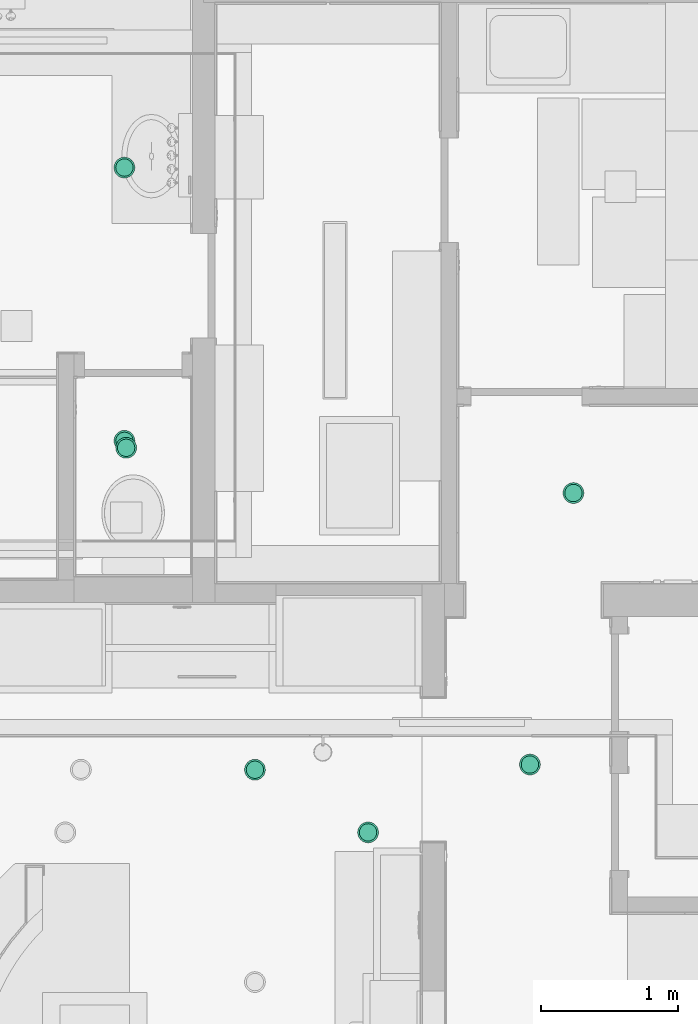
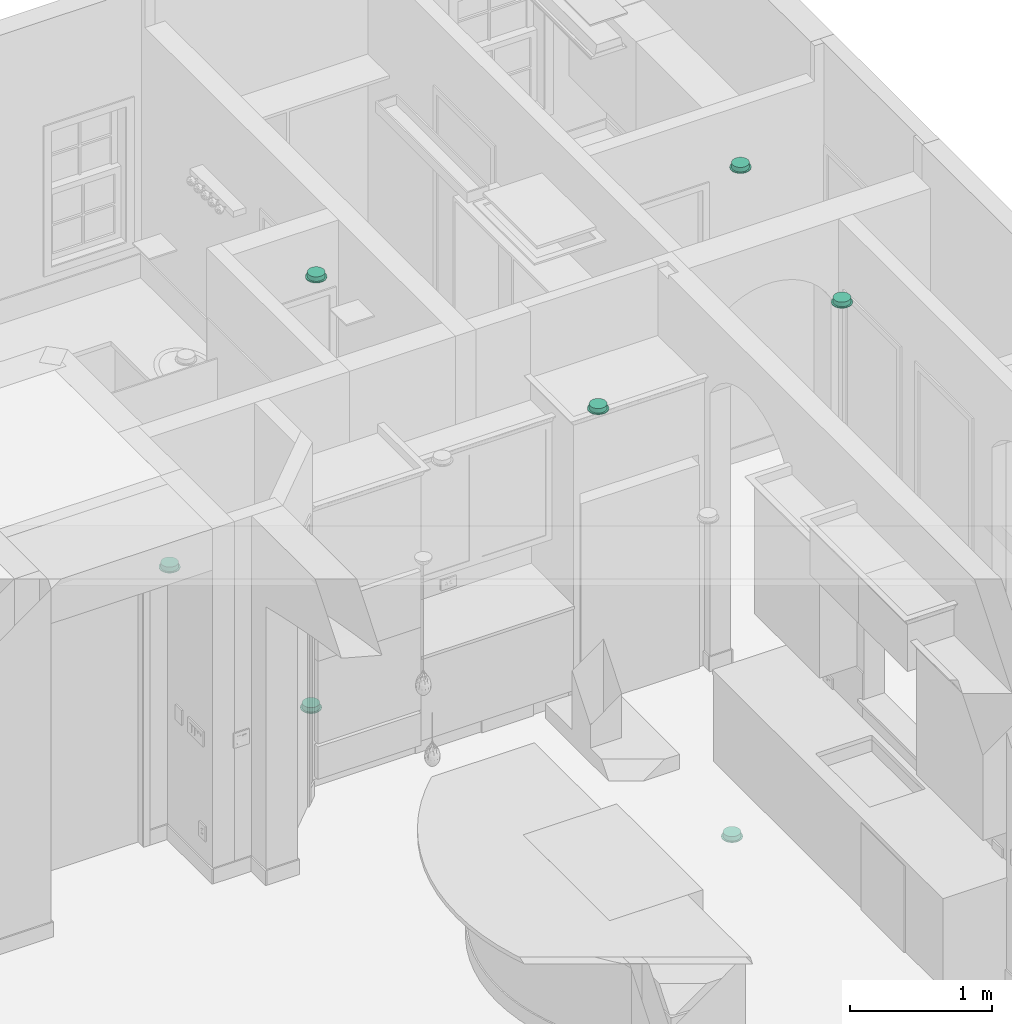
# One storey, part 48 of 81: 7 flow terminals.
"""IFC2X3 building model written with IfcOpenShell, lengths in feet."""

from ifc_helpers import new_model, entity, si_unit, converted_unit, derived_unit, direction, frame, origin, place, context, subcontext, project, spatial, faceted_brep, source, transform, mapped, material, material_list, type_object, type_shapes, element, save


model = new_model("IFC2X3")

# Units and contexts
model_context = context("Model", 3, precision=0.0001, world=origin(), true_north=direction((6.12303176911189e-17, 1.0)))
body_context = subcontext(model_context, "Body", "Model", "MODEL_VIEW")
ifc_project = project(units=[converted_unit("LENGTHUNIT", "FOOT", entity("IfcRatioMeasure", 0.3048), si_unit("LENGTHUNIT", "METRE"), dimensions=[1, 0, 0, 0, 0, 0, 0]), converted_unit("AREAUNIT", "SQUARE FOOT", entity("IfcRatioMeasure", 0.09290304), si_unit("AREAUNIT", "SQUARE_METRE"), dimensions=[2, 0, 0, 0, 0, 0, 0]), converted_unit("VOLUMEUNIT", "CUBIC FOOT", entity("IfcRatioMeasure", 0.028316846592), si_unit("VOLUMEUNIT", "CUBIC_METRE"), dimensions=[3, 0, 0, 0, 0, 0, 0]), converted_unit("PLANEANGLEUNIT", "DEGREE", entity("IfcRatioMeasure", 0.0174532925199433), si_unit("PLANEANGLEUNIT", "RADIAN"), dimensions=[0, 0, 0, 0, 0, 0, 0]), si_unit("MASSUNIT", "GRAM", prefix="KILO"), derived_unit("MASSDENSITYUNIT", [(si_unit("MASSUNIT", "GRAM", prefix="KILO"), 1), (si_unit("LENGTHUNIT", "METRE"), -3)]), derived_unit("MOMENTOFINERTIAUNIT", [(si_unit("LENGTHUNIT", "METRE"), 4)]), si_unit("TIMEUNIT", "SECOND"), si_unit("FREQUENCYUNIT", "HERTZ"), si_unit("THERMODYNAMICTEMPERATUREUNIT", "DEGREE_CELSIUS"), derived_unit("THERMALTRANSMITTANCEUNIT", [(si_unit("MASSUNIT", "GRAM", prefix="KILO"), 1), (si_unit("THERMODYNAMICTEMPERATUREUNIT", "KELVIN"), -1), (si_unit("TIMEUNIT", "SECOND"), -3)]), derived_unit("VOLUMETRICFLOWRATEUNIT", [(si_unit("LENGTHUNIT", "METRE"), 3), (si_unit("TIMEUNIT", "SECOND"), -1)]), si_unit("ELECTRICCURRENTUNIT", "AMPERE"), si_unit("ELECTRICVOLTAGEUNIT", "VOLT"), si_unit("POWERUNIT", "WATT"), si_unit("FORCEUNIT", "NEWTON"), si_unit("ILLUMINANCEUNIT", "LUX"), si_unit("LUMINOUSFLUXUNIT", "LUMEN"), si_unit("LUMINOUSINTENSITYUNIT", "CANDELA"), derived_unit("USERDEFINED", [(si_unit("MASSUNIT", "GRAM", prefix="KILO"), -1), (si_unit("LENGTHUNIT", "METRE"), -2), (si_unit("TIMEUNIT", "SECOND"), 3), (si_unit("LUMINOUSFLUXUNIT", "LUMEN"), 1)]), derived_unit("LINEARVELOCITYUNIT", [(si_unit("LENGTHUNIT", "METRE"), 1), (si_unit("TIMEUNIT", "SECOND"), -1)]), si_unit("PRESSUREUNIT", "PASCAL"), derived_unit("USERDEFINED", [(si_unit("LENGTHUNIT", "METRE"), -2), (si_unit("MASSUNIT", "GRAM", prefix="KILO"), 1), (si_unit("TIMEUNIT", "SECOND"), -2)]), derived_unit("LINEARFORCEUNIT", [(si_unit("MASSUNIT", "GRAM", prefix="KILO"), 1), (si_unit("LENGTHUNIT", "METRE"), 1), (si_unit("TIMEUNIT", "SECOND"), -2), (si_unit("LENGTHUNIT", "METRE"), -1)]), derived_unit("PLANARFORCEUNIT", [(si_unit("MASSUNIT", "GRAM", prefix="KILO"), 1), (si_unit("LENGTHUNIT", "METRE"), 1), (si_unit("TIMEUNIT", "SECOND"), -2), (si_unit("LENGTHUNIT", "METRE"), -2)])], contexts=[model_context])

# Site, building, storey
site_placement = place(None, origin())
site = spatial("IfcSite", under=ifc_project, at=site_placement, Name="Default", CompositionType="ELEMENT")
building_placement = place(site_placement, origin())
building = spatial("IfcBuilding", under=site, at=building_placement, CompositionType="ELEMENT")
storey_placement = place(building_placement, origin())
storey = spatial("IfcBuildingStorey", under=building, at=storey_placement, Name="First floor", CompositionType="ELEMENT", Elevation=0.0)

# Flow terminals
ifc_material_1 = material(Name="Default New Material")
ifc_material_2 = material(Name="Glass, White, High Luminance")
ifc_material_list_1 = material_list([ifc_material_1, ifc_material_2])
ifc_material_list_2 = material_list([ifc_material_1, ifc_material_2])
light_fixture_type = type_object("IfcLightFixtureType", Name="M_Recessed Lamp - Round - LED:Light 2", PredefinedType="NOTDEFINED", material=ifc_material_list_2)
shared_shape = source(origin(), body_context, "Body", "Brep", [
    faceted_brep([(-0.124999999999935, 0.216506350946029, 0.0208333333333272), (-0.176776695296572, 0.176776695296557, 0.0208333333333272), (-0.0833333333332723, 0.144337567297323, 0.0208333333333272), (-0.0431365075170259, 0.160987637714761, 0.0208333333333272), (-0.0647047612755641, 0.241481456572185, 0.0208333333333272), (-0.117851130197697, 0.117851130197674, 0.0208333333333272), (-0.216506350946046, 0.12499999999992, 0.0208333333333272), (-0.144337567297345, 0.0833333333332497, 0.0208333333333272), (-0.160987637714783, 0.0431365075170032, 0.0208333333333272), (-0.241481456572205, 0.0647047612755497, 0.0208333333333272), (-0.166666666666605, 0.0, 0.0208333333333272), (-0.249999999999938, 0.0, 0.0208333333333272), (-0.160987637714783, -0.0431365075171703, 0.0208333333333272), (-0.241481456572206, -0.0647047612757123, 0.0208333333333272), (-0.144337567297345, -0.0833333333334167, 0.0208333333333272), (-0.216506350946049, -0.125000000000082, 0.0208333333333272), (-0.117851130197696, -0.117851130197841, 0.0208333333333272), (-0.176776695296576, -0.176776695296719, 0.0208333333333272), (-0.0833333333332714, -0.14433756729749, 0.0208333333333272), (-0.12499999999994, -0.216506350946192, 0.0208333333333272), (-0.0431365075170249, -0.160987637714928, 0.0208333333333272), (-0.0647047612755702, -0.24148145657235, 0.0208333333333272), (0.0, -0.16666666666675, 0.0208333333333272), (0.0, -0.250000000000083, 0.0208333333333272), (0.0431365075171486, -0.160987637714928, 0.0208333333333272), (0.0647047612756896, -0.241481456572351, 0.0208333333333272), (0.0833333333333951, -0.144337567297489, 0.0208333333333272), (0.12500000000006, -0.216506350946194, 0.0208333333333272), (0.11785113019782, -0.117851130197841, 0.0208333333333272), (0.176776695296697, -0.176776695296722, 0.0208333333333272), (0.144337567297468, -0.0833333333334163, 0.0208333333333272), (0.21650635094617, -0.125000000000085, 0.0208333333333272), (0.241481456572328, -0.0647047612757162, 0.0208333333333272), (0.160987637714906, -0.0431365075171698, 0.0208333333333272), (0.250000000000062, 0.0, 0.0208333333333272), (0.166666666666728, 0.0, 0.0208333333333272), (0.241481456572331, 0.06470476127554, 0.0208333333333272), (0.160987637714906, 0.0431365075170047, 0.0208333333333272), (0.216506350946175, 0.124999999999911, 0.0208333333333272), (0.144337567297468, 0.0833333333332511, 0.0208333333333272), (0.176776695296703, 0.176776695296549, 0.0208333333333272), (0.117851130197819, 0.117851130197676, 0.0208333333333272), (0.125000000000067, 0.216506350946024, 0.0208333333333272), (0.0833333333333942, 0.144337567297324, 0.0208333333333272), (0.0647047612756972, 0.241481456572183, 0.0208333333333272), (0.0431365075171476, 0.160987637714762, 0.0208333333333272), (0.0, 0.249999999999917, 0.0208333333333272), (0.0, 0.166666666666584, 0.0208333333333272), (-0.12499999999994, -0.216506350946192, 0.0), (-0.176776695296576, -0.176776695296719, 0.0), (-0.0833333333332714, -0.14433756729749, 0.0), (-0.0431365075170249, -0.160987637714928, 0.0), (-0.0647047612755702, -0.24148145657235, 0.0), (-0.117851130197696, -0.117851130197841, 0.0), (-0.216506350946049, -0.125000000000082, 0.0), (-0.144337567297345, -0.0833333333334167, 0.0), (-0.160987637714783, -0.0431365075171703, 0.0), (-0.241481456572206, -0.0647047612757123, 0.0), (-0.166666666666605, 0.0, 0.0), (-0.249999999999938, 0.0, 0.0), (-0.160987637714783, 0.0431365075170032, 0.0), (-0.241481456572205, 0.0647047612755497, 0.0), (-0.144337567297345, 0.0833333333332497, 0.0), (-0.216506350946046, 0.12499999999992, 0.0), (-0.117851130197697, 0.117851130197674, 0.0), (-0.176776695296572, 0.176776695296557, 0.0), (-0.0833333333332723, 0.144337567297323, 0.0), (-0.124999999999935, 0.216506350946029, 0.0), (-0.0431365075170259, 0.160987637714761, 0.0), (-0.0647047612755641, 0.241481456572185, 0.0), (0.0, 0.166666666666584, 0.0), (0.0, 0.249999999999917, 0.0), (0.0431365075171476, 0.160987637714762, 0.0), (0.0647047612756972, 0.241481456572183, 0.0), (0.0833333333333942, 0.144337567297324, 0.0), (0.125000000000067, 0.216506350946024, 0.0), (0.117851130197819, 0.117851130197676, 0.0), (0.176776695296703, 0.176776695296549, 0.0), (0.144337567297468, 0.0833333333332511, 0.0), (0.216506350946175, 0.124999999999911, 0.0), (0.241481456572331, 0.06470476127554, 0.0), (0.160987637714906, 0.0431365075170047, 0.0), (0.250000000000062, 0.0, 0.0), (0.166666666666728, 0.0, 0.0), (0.241481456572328, -0.0647047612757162, 0.0), (0.160987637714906, -0.0431365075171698, 0.0), (0.21650635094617, -0.125000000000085, 0.0), (0.144337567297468, -0.0833333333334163, 0.0), (0.176776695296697, -0.176776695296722, 0.0), (0.11785113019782, -0.117851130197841, 0.0), (0.12500000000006, -0.216506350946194, 0.0), (0.0833333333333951, -0.144337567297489, 0.0), (0.0647047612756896, -0.241481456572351, 0.0), (0.0431365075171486, -0.160987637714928, 0.0), (0.0, -0.250000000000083, 0.0), (0.0, -0.16666666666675, 0.0)], [[[0, 1, 2]], [[0, 2, 3]], [[3, 4, 0]], [[2, 1, 5]], [[6, 5, 1]], [[7, 5, 6]], [[8, 7, 6]], [[8, 6, 9]], [[8, 9, 10]], [[10, 9, 11]], [[12, 10, 11]], [[12, 11, 13]], [[14, 12, 13]], [[14, 13, 15]], [[16, 14, 15]], [[15, 17, 16]], [[17, 18, 16]], [[18, 17, 19]], [[18, 19, 20]], [[21, 20, 19]], [[20, 21, 22]], [[22, 21, 23]], [[23, 24, 22]], [[24, 23, 25]], [[24, 25, 26]], [[27, 26, 25]], [[27, 28, 26]], [[27, 29, 28]], [[30, 28, 29]], [[31, 30, 29]], [[32, 30, 31]], [[33, 30, 32]], [[33, 32, 34]], [[34, 35, 33]], [[36, 35, 34]], [[36, 37, 35]], [[37, 36, 38]], [[39, 37, 38]], [[39, 38, 40]], [[39, 40, 41]], [[40, 42, 41]], [[41, 42, 43]], [[43, 42, 44]], [[44, 45, 43]], [[46, 45, 44]], [[4, 47, 46]], [[45, 46, 47]], [[4, 3, 47]], [[48, 49, 50]], [[48, 50, 51]], [[51, 52, 48]], [[50, 49, 53]], [[54, 53, 49]], [[55, 53, 54]], [[56, 55, 54]], [[56, 54, 57]], [[56, 57, 58]], [[58, 57, 59]], [[60, 58, 59]], [[60, 59, 61]], [[62, 60, 61]], [[62, 61, 63]], [[64, 62, 63]], [[63, 65, 64]], [[65, 66, 64]], [[66, 65, 67]], [[66, 67, 68]], [[69, 68, 67]], [[68, 69, 70]], [[70, 69, 71]], [[71, 72, 70]], [[72, 71, 73]], [[72, 73, 74]], [[75, 74, 73]], [[75, 76, 74]], [[75, 77, 76]], [[78, 76, 77]], [[79, 78, 77]], [[80, 78, 79]], [[81, 78, 80]], [[81, 80, 82]], [[82, 83, 81]], [[84, 83, 82]], [[84, 85, 83]], [[85, 84, 86]], [[87, 85, 86]], [[87, 86, 88]], [[87, 88, 89]], [[88, 90, 89]], [[89, 90, 91]], [[91, 90, 92]], [[92, 93, 91]], [[94, 93, 92]], [[52, 95, 94]], [[93, 94, 95]], [[52, 51, 95]], [[10, 58, 60, 8]], [[8, 60, 62, 7]], [[2, 5, 64, 66]], [[62, 64, 5, 7]], [[3, 2, 66, 68]], [[70, 47, 3, 68]], [[45, 72, 74, 43]], [[43, 74, 76, 41]], [[37, 39, 78, 81]], [[76, 78, 39, 41]], [[35, 37, 81, 83]], [[45, 47, 70, 72]], [[35, 83, 85, 33]], [[33, 85, 87, 30]], [[26, 28, 89, 91]], [[87, 89, 28, 30]], [[24, 26, 91, 93]], [[95, 22, 24, 93]], [[20, 51, 50, 18]], [[18, 50, 53, 16]], [[12, 14, 55, 56]], [[53, 55, 14, 16]], [[10, 12, 56, 58]], [[20, 22, 95, 51]], [[57, 13, 11, 59]], [[54, 15, 13, 57]], [[19, 17, 49, 48]], [[54, 49, 17, 15]], [[21, 19, 48, 52]], [[23, 21, 52, 94]], [[92, 25, 23, 94]], [[90, 27, 25, 92]], [[31, 29, 88, 86]], [[90, 88, 29, 27]], [[32, 31, 86, 84]], [[34, 32, 84, 82]], [[80, 36, 34, 82]], [[79, 38, 36, 80]], [[42, 40, 77, 75]], [[79, 77, 40, 38]], [[44, 42, 75, 73]], [[46, 44, 73, 71]], [[69, 4, 46, 71]], [[67, 0, 4, 69]], [[6, 1, 65, 63]], [[67, 65, 1, 0]], [[9, 6, 63, 61]], [[11, 9, 61, 59]]]),
    faceted_brep([(0.0431365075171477, -0.160987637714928, 0.0208333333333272), (0.0833333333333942, -0.14433756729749, 0.0208333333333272), (0.117851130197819, -0.117851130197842, 0.0208333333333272), (0.144337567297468, -0.0833333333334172, 0.0208333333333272), (0.160987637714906, -0.0431365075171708, 0.0208333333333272), (0.166666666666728, 0.0, 0.0208333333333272), (0.160987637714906, 0.0431365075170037, 0.0208333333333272), (0.144337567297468, 0.0833333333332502, 0.0208333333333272), (0.11785113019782, 0.117851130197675, 0.0208333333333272), (0.0833333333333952, 0.144337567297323, 0.0208333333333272), (0.0431365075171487, 0.160987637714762, 0.0208333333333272), (0.0, 0.166666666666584, 0.0208333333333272), (-0.0431365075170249, 0.160987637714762, 0.0208333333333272), (-0.0833333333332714, 0.144337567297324, 0.0208333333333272), (-0.117851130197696, 0.117851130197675, 0.0208333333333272), (-0.144337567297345, 0.0833333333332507, 0.0208333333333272), (-0.160987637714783, 0.0431365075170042, 0.0208333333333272), (-0.166666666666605, 0.0, 0.0208333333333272), (-0.160987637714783, -0.0431365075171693, 0.0208333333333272), (-0.144337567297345, -0.0833333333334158, 0.0208333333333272), (-0.117851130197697, -0.117851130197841, 0.0208333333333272), (-0.0833333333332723, -0.144337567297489, 0.0208333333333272), (-0.0431365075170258, -0.160987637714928, 0.0208333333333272), (0.0, -0.16666666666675, 0.0208333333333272), (0.0431365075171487, 0.160987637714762, 0.0), (0.0833333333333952, 0.144337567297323, 0.0), (0.11785113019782, 0.117851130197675, 0.0), (0.144337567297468, 0.0833333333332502, 0.0), (0.160987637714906, 0.0431365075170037, 0.0), (0.166666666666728, 0.0, 0.0), (0.160987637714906, -0.0431365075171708, 0.0), (0.144337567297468, -0.0833333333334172, 0.0), (0.117851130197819, -0.117851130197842, 0.0), (0.0833333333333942, -0.14433756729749, 0.0), (0.0431365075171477, -0.160987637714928, 0.0), (0.0, -0.16666666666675, 0.0), (-0.0431365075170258, -0.160987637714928, 0.0), (-0.0833333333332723, -0.144337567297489, 0.0), (-0.117851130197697, -0.117851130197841, 0.0), (-0.144337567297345, -0.0833333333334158, 0.0), (-0.160987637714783, -0.0431365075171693, 0.0), (-0.166666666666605, 0.0, 0.0), (-0.160987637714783, 0.0431365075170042, 0.0), (-0.144337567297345, 0.0833333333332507, 0.0), (-0.117851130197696, 0.117851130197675, 0.0), (-0.0833333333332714, 0.144337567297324, 0.0), (-0.0431365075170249, 0.160987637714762, 0.0), (0.0, 0.166666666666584, 0.0)], [[[0, 1, 2, 3, 4, 5, 6, 7, 8, 9, 10, 11, 12, 13, 14, 15, 16, 17, 18, 19, 20, 21, 22, 23]], [[24, 25, 26, 27, 28, 29, 30, 31, 32, 33, 34, 35, 36, 37, 38, 39, 40, 41, 42, 43, 44, 45, 46, 47]], [[40, 18, 17, 41]], [[39, 19, 18, 40]], [[21, 20, 38, 37]], [[39, 38, 20, 19]], [[22, 21, 37, 36]], [[23, 22, 36, 35]], [[34, 0, 23, 35]], [[33, 1, 0, 34]], [[3, 2, 32, 31]], [[33, 32, 2, 1]], [[4, 3, 31, 30]], [[5, 4, 30, 29]], [[28, 6, 5, 29]], [[27, 7, 6, 28]], [[9, 8, 26, 25]], [[27, 26, 8, 7]], [[10, 9, 25, 24]], [[11, 10, 24, 47]], [[46, 12, 11, 47]], [[45, 13, 12, 46]], [[15, 14, 44, 43]], [[45, 44, 14, 13]], [[16, 15, 43, 42]], [[17, 16, 42, 41]]]),
    faceted_brep([(0.0, -0.16666666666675, -0.104166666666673), (0.0431365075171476, -0.160987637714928, -0.104166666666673), (0.0833333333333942, -0.14433756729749, -0.104166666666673), (0.117851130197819, -0.117851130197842, -0.104166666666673), (0.144337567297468, -0.0833333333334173, -0.104166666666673), (0.160987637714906, -0.0431365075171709, -0.104166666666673), (0.166666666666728, 0.0, -0.104166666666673), (0.160987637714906, 0.0431365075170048, -0.104166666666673), (0.144337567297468, 0.0833333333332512, -0.104166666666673), (0.117851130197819, 0.117851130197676, -0.104166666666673), (0.0833333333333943, 0.144337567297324, -0.104166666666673), (0.0431365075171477, 0.160987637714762, -0.104166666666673), (0.0, 0.166666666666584, -0.104166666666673), (-0.0431365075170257, 0.160987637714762, -0.104166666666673), (-0.0833333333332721, 0.144337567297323, -0.104166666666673), (-0.117851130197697, 0.117851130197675, -0.104166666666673), (-0.144337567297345, 0.0833333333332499, -0.104166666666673), (-0.160987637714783, 0.0431365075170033, -0.104166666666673), (-0.166666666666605, 0.0, -0.104166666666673), (-0.160987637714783, -0.0431365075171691, -0.104166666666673), (-0.144337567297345, -0.0833333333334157, -0.104166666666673), (-0.117851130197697, -0.11785113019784, -0.104166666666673), (-0.0833333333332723, -0.144337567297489, -0.104166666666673), (-0.0431365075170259, -0.160987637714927, -0.104166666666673), (0.0, 0.20833333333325, -0.125000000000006), (0.0539206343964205, 0.201234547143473, -0.125000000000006), (0.104166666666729, 0.180421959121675, -0.125000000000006), (0.147313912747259, 0.147313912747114, -0.125000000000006), (0.18042195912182, 0.104166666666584, -0.125000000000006), (0.201234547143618, 0.0539206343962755, -0.125000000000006), (0.208333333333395, 0.0, -0.125000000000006), (0.201234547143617, -0.0539206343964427, -0.125000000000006), (0.180421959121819, -0.104166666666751, -0.125000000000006), (0.147313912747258, -0.147313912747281, -0.125000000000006), (0.104166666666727, -0.180421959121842, -0.125000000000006), (0.0539206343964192, -0.201234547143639, -0.125000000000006), (0.0, -0.208333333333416, -0.125000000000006), (-0.0539206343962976, -0.201234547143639, -0.125000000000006), (-0.104166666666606, -0.180421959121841, -0.125000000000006), (-0.147313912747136, -0.14731391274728, -0.125000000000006), (-0.180421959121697, -0.104166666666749, -0.125000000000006), (-0.201234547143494, -0.0539206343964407, -0.125000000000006), (-0.208333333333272, 0.0, -0.125000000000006), (-0.201234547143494, 0.0539206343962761, -0.125000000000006), (-0.180421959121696, 0.104166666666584, -0.125000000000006), (-0.147313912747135, 0.147313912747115, -0.125000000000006), (-0.104166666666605, 0.180421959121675, -0.125000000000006), (-0.0539206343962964, 0.201234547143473, -0.125000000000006), (-0.201234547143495, -0.0539206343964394, -0.104166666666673), (-0.201234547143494, -0.0539206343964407, 0.0), (-0.208333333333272, 0.0, 0.0), (-0.208333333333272, 0.0, -0.104166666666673), (-0.180421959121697, -0.104166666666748, -0.104166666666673), (-0.180421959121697, -0.104166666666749, 0.0), (-0.104166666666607, -0.18042195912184, -0.104166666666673), (-0.104166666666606, -0.180421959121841, 0.0), (-0.147313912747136, -0.14731391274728, 0.0), (-0.147313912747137, -0.147313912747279, -0.104166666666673), (-0.0539206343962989, -0.201234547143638, -0.104166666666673), (-0.0539206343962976, -0.201234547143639, 0.0), (0.0, -0.208333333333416, -0.104166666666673), (0.0, -0.208333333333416, 0.0), (0.053920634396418, -0.201234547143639, -0.104166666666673), (0.0539206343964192, -0.201234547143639, 0.0), (0.104166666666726, -0.180421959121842, -0.104166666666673), (0.104166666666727, -0.180421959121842, 0.0), (0.180421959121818, -0.104166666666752, -0.104166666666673), (0.180421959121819, -0.104166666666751, 0.0), (0.147313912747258, -0.147313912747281, 0.0), (0.147313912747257, -0.147313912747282, -0.104166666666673), (0.201234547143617, -0.0539206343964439, -0.104166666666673), (0.201234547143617, -0.0539206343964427, 0.0), (0.208333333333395, 0.0, -0.104166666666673), (0.208333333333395, 0.0, 0.0), (0.201234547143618, 0.0539206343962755, -0.104166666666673), (0.201234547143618, 0.0539206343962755, 0.0), (0.18042195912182, 0.104166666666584, -0.104166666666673), (0.18042195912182, 0.104166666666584, 0.0), (0.104166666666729, 0.180421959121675, -0.104166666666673), (0.104166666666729, 0.180421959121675, 0.0), (0.147313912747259, 0.147313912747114, 0.0), (0.147313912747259, 0.147313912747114, -0.104166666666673), (0.0539206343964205, 0.201234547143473, -0.104166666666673), (0.0539206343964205, 0.201234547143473, 0.0), (0.0, 0.20833333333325, -0.104166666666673), (0.0, 0.20833333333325, 0.0), (-0.0539206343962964, 0.201234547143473, -0.104166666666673), (-0.0539206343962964, 0.201234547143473, 0.0), (-0.104166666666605, 0.180421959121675, -0.104166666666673), (-0.104166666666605, 0.180421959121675, 0.0), (-0.180421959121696, 0.104166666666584, -0.104166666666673), (-0.180421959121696, 0.104166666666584, 0.0), (-0.147313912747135, 0.147313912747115, 0.0), (-0.147313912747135, 0.147313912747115, -0.104166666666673), (-0.201234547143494, 0.0539206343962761, -0.104166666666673), (-0.201234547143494, 0.0539206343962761, 0.0), (-0.0833333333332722, 0.144337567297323, 0.0), (-0.0431365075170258, 0.160987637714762, 0.0), (-0.117851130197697, 0.117851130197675, 0.0), (-0.144337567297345, 0.0833333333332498, 0.0), (-0.160987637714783, 0.0431365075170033, 0.0), (-0.166666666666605, 0.0, 0.0), (-0.160987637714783, -0.0431365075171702, 0.0), (-0.144337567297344, -0.0833333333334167, 0.0), (-0.117851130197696, -0.117851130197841, 0.0), (-0.0833333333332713, -0.14433756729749, 0.0), (-0.0431365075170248, -0.160987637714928, 0.0), (0.0, -0.16666666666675, 0.0), (0.0431365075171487, -0.160987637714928, 0.0), (0.0833333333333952, -0.144337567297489, 0.0), (0.11785113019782, -0.117851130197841, 0.0), (0.144337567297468, -0.0833333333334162, 0.0), (0.160987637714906, -0.0431365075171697, 0.0), (0.166666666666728, 0.0, 0.0), (0.160987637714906, 0.0431365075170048, 0.0), (0.144337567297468, 0.0833333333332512, 0.0), (0.117851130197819, 0.117851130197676, 0.0), (0.0833333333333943, 0.144337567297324, 0.0), (0.0431365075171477, 0.160987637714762, 0.0), (0.0, 0.166666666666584, 0.0)], [[[0, 1, 2, 3, 4, 5, 6, 7, 8, 9, 10, 11, 12, 13, 14, 15, 16, 17, 18, 19, 20, 21, 22, 23]], [[24, 25, 26, 27, 28, 29, 30, 31, 32, 33, 34, 35, 36, 37, 38, 39, 40, 41, 42, 43, 44, 45, 46, 47]], [[41, 48, 49, 50, 51, 42]], [[40, 52, 53, 49, 48, 41]], [[54, 55, 56, 57, 39, 38]], [[40, 39, 57, 56, 53, 52]], [[58, 59, 55, 54, 38, 37]], [[60, 61, 59, 58, 37, 36]], [[35, 62, 63, 61, 60, 36]], [[34, 64, 65, 63, 62, 35]], [[66, 67, 68, 69, 33, 32]], [[34, 33, 69, 68, 65, 64]], [[70, 71, 67, 66, 32, 31]], [[72, 73, 71, 70, 31, 30]], [[29, 74, 75, 73, 72, 30]], [[28, 76, 77, 75, 74, 29]], [[78, 79, 80, 81, 27, 26]], [[28, 27, 81, 80, 77, 76]], [[82, 83, 79, 78, 26, 25]], [[84, 85, 83, 82, 25, 24]], [[47, 86, 87, 85, 84, 24]], [[46, 88, 89, 87, 86, 47]], [[90, 91, 92, 93, 45, 44]], [[46, 45, 93, 92, 89, 88]], [[94, 95, 91, 90, 44, 43]], [[51, 50, 95, 94, 43, 42]], [[89, 92, 96]], [[89, 96, 97]], [[97, 87, 89]], [[96, 92, 98]], [[91, 98, 92]], [[99, 98, 91]], [[100, 99, 91]], [[100, 91, 95]], [[100, 95, 101]], [[101, 95, 50]], [[102, 101, 50]], [[102, 50, 49]], [[103, 102, 49]], [[103, 49, 53]], [[104, 103, 53]], [[53, 56, 104]], [[56, 105, 104]], [[105, 56, 55]], [[105, 55, 106]], [[59, 106, 55]], [[106, 59, 107]], [[107, 59, 61]], [[61, 108, 107]], [[108, 61, 63]], [[108, 63, 109]], [[65, 109, 63]], [[65, 110, 109]], [[65, 68, 110]], [[111, 110, 68]], [[67, 111, 68]], [[71, 111, 67]], [[112, 111, 71]], [[112, 71, 73]], [[73, 113, 112]], [[75, 113, 73]], [[75, 114, 113]], [[114, 75, 77]], [[115, 114, 77]], [[115, 77, 80]], [[115, 80, 116]], [[80, 79, 116]], [[116, 79, 117]], [[117, 79, 83]], [[83, 118, 117]], [[85, 118, 83]], [[87, 119, 85]], [[85, 119, 118]], [[87, 97, 119]], [[113, 6, 5, 112]], [[112, 5, 4, 111]], [[109, 110, 3, 2]], [[4, 3, 110, 111]], [[108, 109, 2, 1]], [[0, 107, 108, 1]], [[104, 105, 22, 21]], [[23, 22, 105, 106]], [[102, 103, 20, 19]], [[104, 21, 20, 103]], [[102, 19, 18, 101]], [[0, 23, 106, 107]], [[101, 18, 17, 100]], [[100, 17, 16, 99]], [[96, 98, 15, 14]], [[16, 15, 98, 99]], [[97, 96, 14, 13]], [[12, 119, 97, 13]], [[118, 11, 10, 117]], [[117, 10, 9, 116]], [[114, 115, 8, 7]], [[9, 8, 115, 116]], [[113, 114, 7, 6]], [[118, 119, 12, 11]]]),
])
type_shapes(light_fixture_type, [shared_shape])
flow_terminal_1_placement = place(storey_placement, frame((11.6249999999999, 27.4583333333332, 8.41666666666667), z_axis=(0.0, 0.0, -1.0), x_axis=(1.0, 0.0, 0.0)))
element("IfcFlowTerminal", 1, at=flow_terminal_1_placement, inside=storey, type_object=light_fixture_type, material=ifc_material_list_1, Name="M_Recessed Lamp - Round - LED:Light 2", ObjectType="M_Recessed Lamp - Round - LED:Light 2", context=body_context, shape_type="MappedRepresentation", body=[
    mapped(shared_shape, transform((0.0, 0.0, 0.0), scale=1.0)),
])
ifc_material_list_3 = material_list([ifc_material_1, ifc_material_2])
flow_terminal_2_placement = place(storey_placement, frame((5.79166666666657, 36.8333333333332, 8.41666666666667), z_axis=(0.0, 0.0, -1.0), x_axis=(1.0, 0.0, 0.0)))
element("IfcFlowTerminal", 2, at=flow_terminal_2_placement, inside=storey, type_object=light_fixture_type, material=ifc_material_list_3, Name="M_Recessed Lamp - Round - LED:Light 2", ObjectType="M_Recessed Lamp - Round - LED:Light 2", context=body_context, shape_type="MappedRepresentation", body=[
    mapped(shared_shape, transform((0.0, 0.0, 0.0), scale=1.0)),
])
ifc_material_list_4 = material_list([ifc_material_1, ifc_material_2])
flow_terminal_3_placement = place(storey_placement, frame((5.79166666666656, 43.3749999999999, 8.41666666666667), z_axis=(0.0, 0.0, -1.0), x_axis=(1.0, 0.0, 0.0)))
element("IfcFlowTerminal", 3, at=flow_terminal_3_placement, inside=storey, type_object=light_fixture_type, material=ifc_material_list_4, Name="M_Recessed Lamp - Round - LED:Light 2", ObjectType="M_Recessed Lamp - Round - LED:Light 2", context=body_context, shape_type="MappedRepresentation", body=[
    mapped(shared_shape, transform((0.0, 0.0, 0.0), scale=1.0)),
])
ifc_material_list_5 = material_list([ifc_material_1, ifc_material_2])
flow_terminal_4_placement = place(storey_placement, frame((16.5416666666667, 35.5829881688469, 20.6666666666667), z_axis=(0.0, 0.0, -1.0), x_axis=(-1.0, 0.0, 0.0)))
element("IfcFlowTerminal", 4, at=flow_terminal_4_placement, inside=storey, type_object=light_fixture_type, material=ifc_material_list_5, Name="M_Recessed Lamp - Round - LED:Light 2", ObjectType="M_Recessed Lamp - Round - LED:Light 2", context=body_context, shape_type="MappedRepresentation", body=[
    mapped(shared_shape, transform((0.0, 0.0, 0.0), scale=1.0)),
])
ifc_material_list_6 = material_list([ifc_material_1, ifc_material_2])
flow_terminal_5_placement = place(storey_placement, frame((15.4999566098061, 29.0829499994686, 21.1666666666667), z_axis=(0.0, 0.0, -1.0), x_axis=(-1.0, 2.86270945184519e-05, 0.0)))
element("IfcFlowTerminal", 5, at=flow_terminal_5_placement, inside=storey, type_object=light_fixture_type, material=ifc_material_list_6, Name="M_Recessed Lamp - Round - LED:Light 2", ObjectType="M_Recessed Lamp - Round - LED:Light 2", context=body_context, shape_type="MappedRepresentation", body=[
    mapped(shared_shape, transform((0.0, 0.0, 0.0), scale=1.0)),
])
ifc_material_list_7 = material_list([ifc_material_1, ifc_material_2])
flow_terminal_6_placement = place(storey_placement, frame((8.91632952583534, 28.9583333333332, 20.5416666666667), z_axis=(0.0, 0.0, -1.0), x_axis=(1.0, 0.0, 0.0)))
element("IfcFlowTerminal", 6, at=flow_terminal_6_placement, inside=storey, type_object=light_fixture_type, material=ifc_material_list_7, Name="M_Recessed Lamp - Round - LED:Light 2", ObjectType="M_Recessed Lamp - Round - LED:Light 2", context=body_context, shape_type="MappedRepresentation", body=[
    mapped(shared_shape, transform((0.0, 0.0, 0.0), scale=1.0)),
])
ifc_material_list_8 = material_list([ifc_material_1, ifc_material_2])
flow_terminal_7_placement = place(storey_placement, frame((5.83333333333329, 36.6666666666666, 20.6666666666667), z_axis=(0.0, 0.0, -1.0), x_axis=(1.0, 0.0, 0.0)))
element("IfcFlowTerminal", 7, at=flow_terminal_7_placement, inside=storey, type_object=light_fixture_type, material=ifc_material_list_8, Name="M_Recessed Lamp - Round - LED:Light 2", ObjectType="M_Recessed Lamp - Round - LED:Light 2", context=body_context, shape_type="MappedRepresentation", body=[
    mapped(shared_shape, transform((0.0, 0.0, 0.0), scale=1.0)),
])

save(model, "model.ifc")
